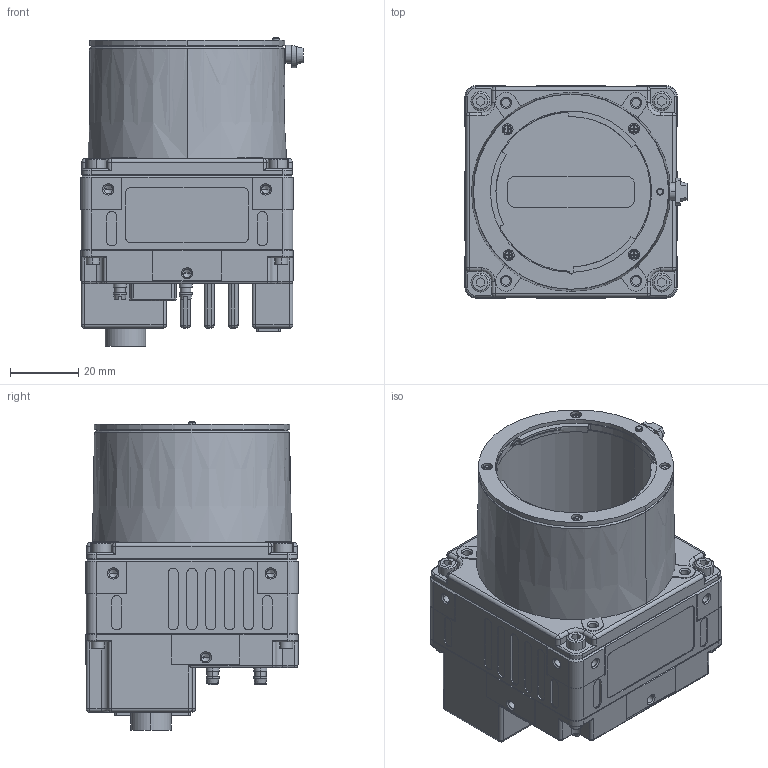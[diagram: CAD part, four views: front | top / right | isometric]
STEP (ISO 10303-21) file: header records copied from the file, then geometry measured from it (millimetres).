
FILE_DESCRIPTION((''),'2;1');
FILE_NAME('SW-4000M-PMCL-F_MOCK','2017-04-26T',('aso'),(''),'CREO PARAMETRIC BY PTC INC, 2016260','CREO PARAMETRIC BY PTC INC, 2016260','');
FILE_SCHEMA(('CONFIG_CONTROL_DESIGN'));
Products named in the file (1): SW-4000M-PMCL-F_MOCK
Bounding box: 64.9 x 62 x 90.1 mm (x, y, z)
Volume: 1631.1 mm3; surface area: 74897.4 mm2
Topology: 1 solids, 36 shells, 4283 faces, 12007 edges, 7756 vertices
Faces by surface type: plane 2837, cylinder 1026, cone 256, torus 87, sphere 47, bspline 30
Entity records: 140771 total; most frequent: CARTESIAN_POINT 29658, ORIENTED_EDGE 23608, DIRECTION 22537, EDGE_CURVE 11892, VECTOR 8627, LINE 8627, VERTEX_POINT 7756, AXIS2_PLACEMENT_3D 6955
